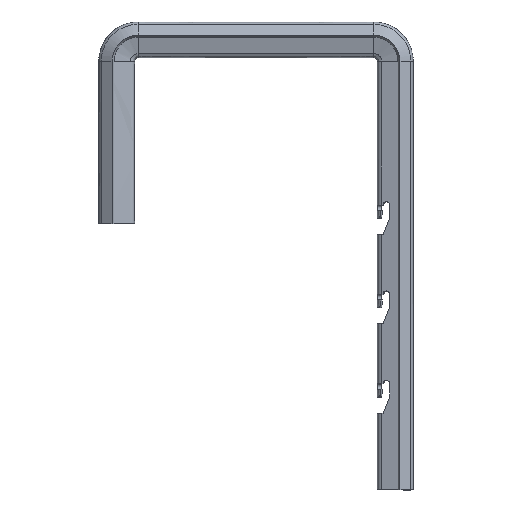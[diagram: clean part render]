
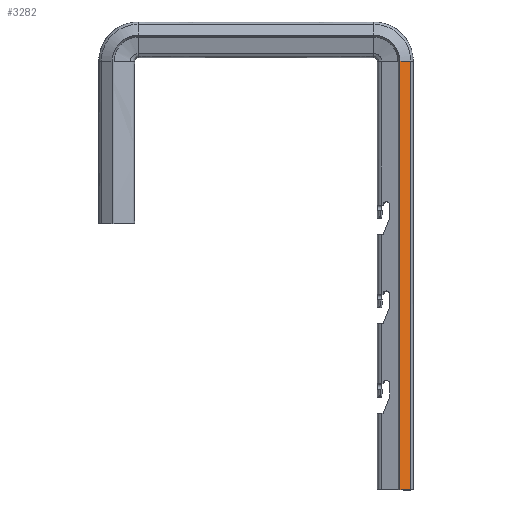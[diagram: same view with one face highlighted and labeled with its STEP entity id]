
A CAD part, left-side view. The second image highlights one B-rep face of the part: STEP entity #3282.
In plain terms, the highlighted planar face has unit normal (-0.832, -0.555, 0).
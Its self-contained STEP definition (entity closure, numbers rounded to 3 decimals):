
#1450 = VECTOR ( 'NONE', #15017, 1000. ) ;
#1701 = VERTEX_POINT ( 'NONE', #17769 ) ;
#3282 = ADVANCED_FACE ( 'NONE', ( #16435 ), #46317, .T. ) ;
#4521 = EDGE_CURVE ( 'NONE', #24470, #39458, #5190, .T. ) ;
#4596 = LINE ( 'NONE', #30753, #43724 ) ;
#5190 = LINE ( 'NONE', #35297, #19563 ) ;
#5352 = CARTESIAN_POINT ( 'NONE',  ( -26., -12.606, 0. ) ) ;
#8335 = VECTOR ( 'NONE', #41659, 1000. ) ;
#8808 = ORIENTED_EDGE ( 'NONE', *, *, #47149, .T. ) ;
#10069 = AXIS2_PLACEMENT_3D ( 'NONE', #42372, #31490, #42615 ) ;
#11174 = CARTESIAN_POINT ( 'NONE',  ( -26., -12.606, 240. ) ) ;
#12256 = LINE ( 'NONE', #38440, #8335 ) ;
#13044 = ORIENTED_EDGE ( 'NONE', *, *, #42589, .T. ) ;
#15017 = DIRECTION ( 'NONE',  ( 0., 0., -1. ) ) ;
#15460 = ORIENTED_EDGE ( 'NONE', *, *, #36770, .F. ) ;
#16435 = FACE_OUTER_BOUND ( 'NONE', #39646, .T. ) ;
#17769 = CARTESIAN_POINT ( 'NONE',  ( -21.972, -18.648, 240. ) ) ;
#19563 = VECTOR ( 'NONE', #20238, 1000. ) ;
#20238 = DIRECTION ( 'NONE',  ( -0.555, 0.832, 0. ) ) ;
#23156 = LINE ( 'NONE', #33780, #1450 ) ;
#24470 = VERTEX_POINT ( 'NONE', #38183 ) ;
#26808 = DIRECTION ( 'NONE',  ( -0.555, 0.832, 0. ) ) ;
#30753 = CARTESIAN_POINT ( 'NONE',  ( -26., -12.606, 240. ) ) ;
#31490 = DIRECTION ( 'NONE',  ( -0.832, -0.555, 0. ) ) ;
#33780 = CARTESIAN_POINT ( 'NONE',  ( -21.961, -18.664, 240. ) ) ;
#35297 = CARTESIAN_POINT ( 'NONE',  ( -26., -12.606, 0. ) ) ;
#36770 = EDGE_CURVE ( 'NONE', #1701, #24470, #23156, .T. ) ;
#37099 = VERTEX_POINT ( 'NONE', #11174 ) ;
#38183 = CARTESIAN_POINT ( 'NONE',  ( -21.961, -18.664, 0. ) ) ;
#38440 = CARTESIAN_POINT ( 'NONE',  ( -26., -12.606, 240. ) ) ;
#39458 = VERTEX_POINT ( 'NONE', #5352 ) ;
#39646 = EDGE_LOOP ( 'NONE', ( #42458, #15460, #13044, #8808 ) ) ;
#41659 = DIRECTION ( 'NONE',  ( 0., 0., -1. ) ) ;
#42372 = CARTESIAN_POINT ( 'NONE',  ( -26., -12.606, 240. ) ) ;
#42458 = ORIENTED_EDGE ( 'NONE', *, *, #4521, .F. ) ;
#42589 = EDGE_CURVE ( 'NONE', #1701, #37099, #4596, .T. ) ;
#42615 = DIRECTION ( 'NONE',  ( 0.555, -0.832, 0. ) ) ;
#43724 = VECTOR ( 'NONE', #26808, 1000. ) ;
#46317 = PLANE ( 'NONE',  #10069 ) ;
#47149 = EDGE_CURVE ( 'NONE', #37099, #39458, #12256, .T. ) ;
